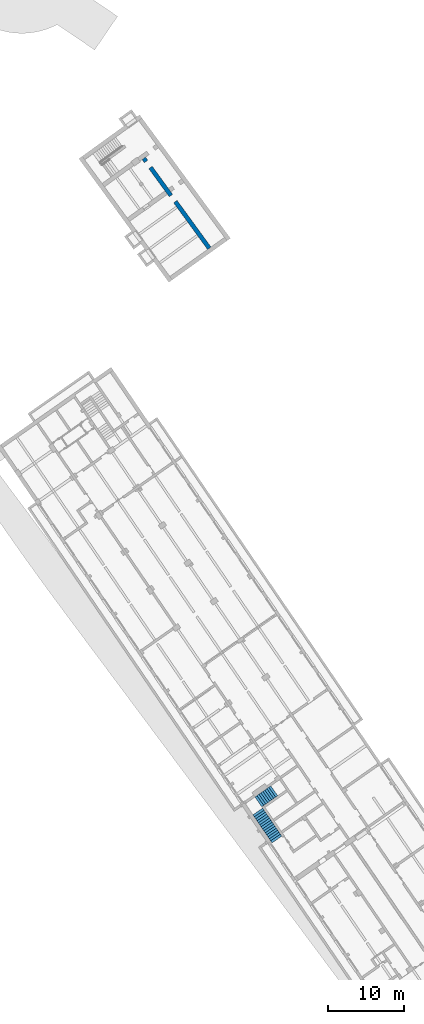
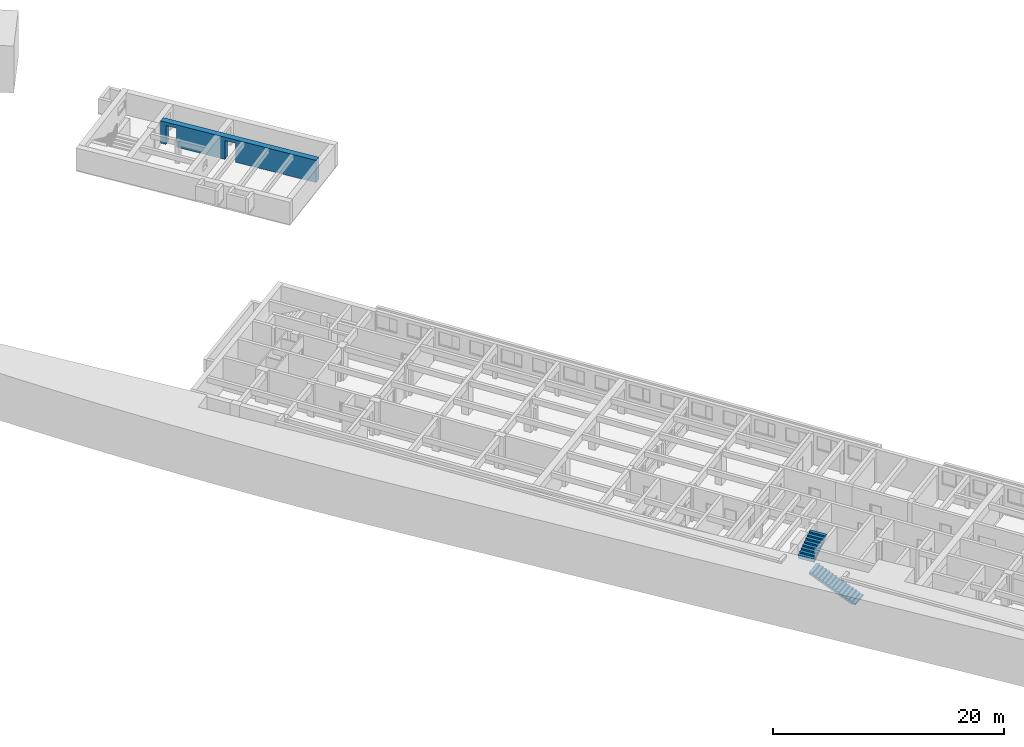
# One storey, part 108 of 112: 2 stair flights, 1 wall, 1 element without a shape of its own.
"""IFC2X3 building model written with IfcOpenShell, lengths in millimetres."""

from ifc_helpers import new_model, entity, si_unit, converted_unit, derived_unit, direction, frame, origin, place, context, subcontext, project, spatial, faceted_brep, material, material_list, layer, layer_set, type_object, element, aggregate, save


model = new_model("IFC2X3")

# Units and contexts
model_context = context("Model", 3, precision=0.01, world=origin(), true_north=direction((6.123031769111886e-17, 1.0)))
body_context = subcontext(model_context, "Body", "Model", "MODEL_VIEW")
ifc_project = project(units=[si_unit("LENGTHUNIT", "METRE", prefix="MILLI"), si_unit("AREAUNIT", "SQUARE_METRE"), si_unit("VOLUMEUNIT", "CUBIC_METRE"), converted_unit("PLANEANGLEUNIT", "DEGREE", entity("IfcRatioMeasure", 0.017453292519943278), si_unit("PLANEANGLEUNIT", "RADIAN"), dimensions=[0, 0, 0, 0, 0, 0, 0]), si_unit("MASSUNIT", "GRAM", prefix="KILO"), derived_unit("MASSDENSITYUNIT", [(si_unit("MASSUNIT", "GRAM", prefix="KILO"), 1), (si_unit("LENGTHUNIT", "METRE"), -3)]), derived_unit("MOMENTOFINERTIAUNIT", [(si_unit("LENGTHUNIT", "METRE"), 4)]), si_unit("TIMEUNIT", "SECOND"), si_unit("FREQUENCYUNIT", "HERTZ"), si_unit("THERMODYNAMICTEMPERATUREUNIT", "DEGREE_CELSIUS"), derived_unit("THERMALTRANSMITTANCEUNIT", [(si_unit("MASSUNIT", "GRAM", prefix="KILO"), 1), (si_unit("THERMODYNAMICTEMPERATUREUNIT", "KELVIN"), -1), (si_unit("TIMEUNIT", "SECOND"), -3)]), derived_unit("THERMALCONDUCTANCEUNIT", [(si_unit("MASSUNIT", "GRAM", prefix="KILO"), 1), (si_unit("LENGTHUNIT", "METRE"), 1), (si_unit("THERMODYNAMICTEMPERATUREUNIT", "KELVIN"), -1), (si_unit("TIMEUNIT", "SECOND"), -3)]), derived_unit("VOLUMETRICFLOWRATEUNIT", [(si_unit("LENGTHUNIT", "METRE"), 3), (si_unit("TIMEUNIT", "SECOND"), -1)]), derived_unit("MASSFLOWRATEUNIT", [(si_unit("MASSUNIT", "GRAM", prefix="KILO"), 1), (si_unit("TIMEUNIT", "SECOND"), -1)]), derived_unit("ROTATIONALFREQUENCYUNIT", [(si_unit("TIMEUNIT", "SECOND"), -1)]), si_unit("ELECTRICCURRENTUNIT", "AMPERE"), si_unit("ELECTRICVOLTAGEUNIT", "VOLT"), si_unit("POWERUNIT", "WATT"), converted_unit("FORCEUNIT", "KIP", entity("IfcRatioMeasure", 2.088543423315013e-05), si_unit("FORCEUNIT", "NEWTON"), dimensions=[1, 1, -2, 0, 0, 0, 0]), si_unit("ILLUMINANCEUNIT", "LUX"), si_unit("LUMINOUSFLUXUNIT", "LUMEN"), si_unit("LUMINOUSINTENSITYUNIT", "CANDELA"), derived_unit("USERDEFINED", [(si_unit("MASSUNIT", "GRAM", prefix="KILO"), -1), (si_unit("LENGTHUNIT", "METRE"), -2), (si_unit("TIMEUNIT", "SECOND"), 3), (si_unit("LUMINOUSFLUXUNIT", "LUMEN"), 1)]), derived_unit("USERDEFINED", [(si_unit("MASSUNIT", "GRAM", prefix="KILO"), 1), (si_unit("LENGTHUNIT", "METRE"), 3), (si_unit("TIMEUNIT", "SECOND"), -3), (si_unit("ELECTRICCURRENTUNIT", "AMPERE"), -2)]), derived_unit("USERDEFINED", [(si_unit("LENGTHUNIT", "METRE"), 2), (si_unit("TIMEUNIT", "SECOND"), -2)]), derived_unit("SOUNDPOWERUNIT", [(si_unit("MASSUNIT", "GRAM", prefix="KILO"), 1), (si_unit("LENGTHUNIT", "METRE"), 2), (si_unit("TIMEUNIT", "SECOND"), -3)]), derived_unit("SOUNDPRESSUREUNIT", [(si_unit("MASSUNIT", "GRAM", prefix="KILO"), 1), (si_unit("LENGTHUNIT", "METRE"), -1), (si_unit("TIMEUNIT", "SECOND"), -2)]), derived_unit("LINEARVELOCITYUNIT", [(si_unit("LENGTHUNIT", "METRE"), 1), (si_unit("TIMEUNIT", "SECOND"), -1)]), si_unit("PRESSUREUNIT", "PASCAL"), derived_unit("USERDEFINED", [(si_unit("LENGTHUNIT", "METRE"), -2), (si_unit("MASSUNIT", "GRAM", prefix="KILO"), 1), (si_unit("TIMEUNIT", "SECOND"), -2)]), derived_unit("LINEARFORCEUNIT", [(si_unit("MASSUNIT", "GRAM", prefix="KILO"), 1), (si_unit("LENGTHUNIT", "METRE"), 1), (si_unit("TIMEUNIT", "SECOND"), -2), (si_unit("LENGTHUNIT", "METRE"), -1)]), derived_unit("PLANARFORCEUNIT", [(si_unit("MASSUNIT", "GRAM", prefix="KILO"), 1), (si_unit("LENGTHUNIT", "METRE"), 1), (si_unit("TIMEUNIT", "SECOND"), -2), (si_unit("LENGTHUNIT", "METRE"), -2)]), derived_unit("SPECIFICHEATCAPACITYUNIT", [(si_unit("LENGTHUNIT", "METRE"), 2), (si_unit("TIMEUNIT", "SECOND"), -2), (si_unit("THERMODYNAMICTEMPERATUREUNIT", "KELVIN"), -1)]), derived_unit("VAPORPERMEABILITYUNIT", [(si_unit("TIMEUNIT", "SECOND"), 1), (si_unit("LENGTHUNIT", "METRE"), -1)]), derived_unit("DYNAMICVISCOSITYUNIT", [(si_unit("MASSUNIT", "GRAM", prefix="KILO"), 1), (si_unit("LENGTHUNIT", "METRE"), -1), (si_unit("TIMEUNIT", "SECOND"), -1)]), derived_unit("THERMALEXPANSIONCOEFFICIENTUNIT", [(si_unit("THERMODYNAMICTEMPERATUREUNIT", "KELVIN"), -1)])], contexts=[model_context])

# Site, building, storey
site_placement = place(None, frame((0.0, 0.0, 0.0), z_axis=(0.0, 0.0, 1.0), x_axis=(0.8191520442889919, 0.5735764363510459, 0.0)))
site = spatial("IfcSite", under=ifc_project, at=site_placement, Name="Default", CompositionType="ELEMENT")
building_placement = place(site_placement, origin())
building = spatial("IfcBuilding", under=site, at=building_placement, CompositionType="ELEMENT")
storey_placement = place(building_placement, frame((0.0, 0.0, -3600.0)))
storey = spatial("IfcBuildingStorey", under=building, at=storey_placement, Name="0.UG -3.60", CompositionType="ELEMENT", Elevation=-3600.0000000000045)

# Wall
ifc_material_1 = material(Name="Analytical Wall Surface_CJC")
ifc_layer = layer(ifc_material_1, 550.0)
ifc_layer_set = layer_set([ifc_layer], Name="Basic Wall:Wand_Innen_55")
wall_type = type_object("IfcWallType", Name="Basic Wall:Wand_Innen_55", PredefinedType="STANDARD", material=ifc_layer_set)
wall_placement = place(storey_placement, frame((-184353.72190024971, 178460.06000913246, -50.0), z_axis=(0.0, 0.0, 1.0), x_axis=(-0.01853253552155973, 0.9998282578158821, 0.0)))
element("IfcWall", 1, at=wall_placement, inside=storey, type_object=wall_type, Name="Basic Wall:Wand_Innen_55", ObjectType="Basic Wall:Wand_Innen_55", context=body_context, shape_type="Brep", body=[
    faceted_brep([(0.0, -275.0, 0.0), (7635.848738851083, -275.0, 0.0), (7635.848738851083, -275.0, 2000.0), (8635.848738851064, -275.0, 2000.0), (8635.848738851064, -275.0, 0.0), (9035.848738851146, -275.0, 0.0), (9585.862163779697, -275.0, 0.0), (13216.367868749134, -275.0, 0.0), (13216.367868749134, -275.0, 2000.0), (14216.02441387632, -275.0, 2000.0), (14216.02441387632, -275.0, 0.0), (14714.33010906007, -275.0, 0.0), (14714.33010906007, -275.0, 2350.0), (9585.862163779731, -275.0, 2350.0), (9035.848738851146, -275.0, 2350.0), (0.0, -275.0, 2350.0), (5.051833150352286, 275.0, 0.0), (5.051833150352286, 275.0, 2350.0), (2144.2296649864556, 275.0, 2350.0), (2444.229664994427, 275.0, 2350.0), (4474.293720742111, 275.0, 2350.0), (4774.300723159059, 275.0, 2350.0), (6786.698557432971, 275.0, 2350.0), (7086.7046675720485, 275.0, 2350.0), (9039.691602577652, 275.0, 2350.0), (9589.70502750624, 275.0, 2350.0), (14716.02441387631, 275.0, 2350.0), (14716.02441387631, 275.0, 0.0), (14216.02441387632, 275.0, 0.0), (14216.02441387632, 275.0, 2000.0), (13216.36786874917, 275.0, 2000.0), (13216.36786874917, 275.0, 0.0), (9589.70502750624, 275.0, 0.0), (9039.691602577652, 275.0, 0.0), (8635.848738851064, 275.0, 0.0), (8635.848738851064, 275.0, 2000.0), (7635.848738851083, 275.0, 2000.0), (7635.848738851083, 275.0, 0.0)], [[[0, 1, 2, 3, 4, 5, 6, 7, 8, 9, 10, 11, 12, 13, 14, 15]], [[16, 17, 18, 19, 20, 21, 22, 23, 24, 25, 26, 27, 28, 29, 30, 31, 32, 33, 34, 35, 36, 37]], [[0, 15, 17, 16]], [[12, 11, 27, 26]], [[1, 0, 16, 37]], [[15, 14, 13, 12, 26, 25, 24, 23, 22, 21, 20, 19, 18, 17]], [[8, 7, 31, 30]], [[9, 8, 30, 29]], [[10, 9, 29, 28]], [[11, 10, 28, 27]], [[2, 1, 37, 36]], [[3, 2, 36, 35]], [[4, 3, 35, 34]], [[7, 6, 5, 4, 34, 33, 32, 31]]]),
])

# Stair, stair flights
stair_placement = place(storey_placement, origin())
stair = element("IfcStair", 2, at=stair_placement, inside=storey, Name="Precast Stair:Stair", ObjectType="Precast Stair:Stair_CJC_KH", ShapeType="NOTDEFINED")
ifc_material_2 = material(Name="Concrete, Cast-in-Place gray")
ifc_material_list = material_list([ifc_material_2, ifc_material_1])
stair_flight_type = type_object("IfcStairFlightType", Name="Monolithic Run:1mm_Tread-175mm_Depth", PredefinedType="STRAIGHT")
stair_flight_1_placement = place(stair_placement, frame((-222682.45229691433, 109255.22423041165, 0.0)))
stair_flight_1 = element("IfcStairFlight", 3, at=stair_flight_1_placement, type_object=stair_flight_type, material=ifc_material_list, Name="Precast Stair:Stair:623219 Run 1", ObjectType="Monolithic Run:1mm_Tread-175mm_Depth", NumberOfRiser=15, NumberOfTreads=14, RiserHeight=0.4921259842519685, TreadLength=1.0498687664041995, context=body_context, shape_type="Brep", body=[
    faceted_brep([(4.674122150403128, 343.0443397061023, 150.0), (0.0, 23.078478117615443, 150.0), (1579.8314415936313, 0.0, 150.0), (1584.5055637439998, 319.9658615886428, 150.0), (4.674122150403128, 343.0443397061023, 149.0), (1584.5055637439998, 319.9658615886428, 149.0), (1579.8314415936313, 0.0, 149.0), (0.0, 23.078478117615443, 149.0)], [[[0, 1, 2, 3]], [[4, 5, 6, 7]], [[1, 0, 4, 7]], [[2, 1, 7, 6]], [[3, 2, 6, 5]], [[0, 3, 5, 4]]]),
    faceted_brep([(9.348244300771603, 663.010201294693, 300.0), (4.674122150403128, 343.0443397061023, 300.0), (1584.5055637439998, 319.9658615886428, 300.0), (1589.1796858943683, 639.9317231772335, 300.0), (9.348244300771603, 663.010201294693, 299.0), (1589.1796858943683, 639.9317231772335, 299.0), (1584.5055637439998, 319.9658615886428, 299.0), (4.674122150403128, 343.0443397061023, 299.0)], [[[0, 1, 2, 3]], [[4, 5, 6, 7]], [[1, 0, 4, 7]], [[2, 1, 7, 6]], [[3, 2, 6, 5]], [[0, 3, 5, 4]]]),
    faceted_brep([(14.022366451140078, 982.9760628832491, 450.0), (9.348244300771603, 663.0102012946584, 450.0), (1589.1796858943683, 639.9317231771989, 450.0), (1593.8538080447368, 959.8975847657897, 450.0), (14.022366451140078, 982.9760628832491, 449.0), (1593.8538080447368, 959.8975847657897, 449.0), (1589.1796858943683, 639.9317231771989, 449.0), (9.348244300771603, 663.0102012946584, 449.0)], [[[0, 1, 2, 3]], [[4, 5, 6, 7]], [[1, 0, 4, 7]], [[2, 1, 7, 6]], [[3, 2, 6, 5]], [[0, 3, 5, 4]]]),
    faceted_brep([(18.696488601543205, 1302.94192447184, 600.0), (14.022366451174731, 982.9760628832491, 600.0), (1593.8538080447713, 959.8975847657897, 600.0), (1598.5279301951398, 1279.8634463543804, 600.0), (18.696488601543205, 1302.94192447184, 599.0), (1598.5279301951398, 1279.8634463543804, 599.0), (1593.8538080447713, 959.8975847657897, 599.0), (14.022366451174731, 982.9760628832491, 599.0)], [[[0, 1, 2, 3]], [[4, 5, 6, 7]], [[1, 0, 4, 7]], [[2, 1, 7, 6]], [[3, 2, 6, 5]], [[0, 3, 5, 4]]]),
    faceted_brep([(23.370610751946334, 1622.9077860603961, 750.0), (18.696488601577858, 1302.9419244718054, 750.0), (1598.5279301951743, 1279.8634463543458, 750.0), (1603.2020523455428, 1599.8293079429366, 750.0), (23.370610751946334, 1622.9077860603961, 749.0), (1603.2020523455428, 1599.8293079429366, 749.0), (1598.5279301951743, 1279.8634463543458, 749.0), (18.696488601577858, 1302.9419244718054, 749.0)], [[[0, 1, 2, 3]], [[4, 5, 6, 7]], [[1, 0, 4, 7]], [[2, 1, 7, 6]], [[3, 2, 6, 5]], [[0, 3, 5, 4]]]),
    faceted_brep([(28.04473290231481, 1942.8736476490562, 900.0), (23.370610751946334, 1622.9077860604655, 900.0), (1603.2020523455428, 1599.829307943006, 900.0), (1607.8761744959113, 1919.7951695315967, 900.0), (28.04473290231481, 1942.8736476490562, 899.0), (1607.8761744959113, 1919.7951695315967, 899.0), (1603.2020523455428, 1599.829307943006, 899.0), (23.370610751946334, 1622.9077860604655, 899.0)], [[[0, 1, 2, 3]], [[4, 5, 6, 7]], [[1, 0, 4, 7]], [[2, 1, 7, 6]], [[3, 2, 6, 5]], [[0, 3, 5, 4]]]),
    faceted_brep([(32.718855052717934, 2262.839509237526, 1050.0), (28.044732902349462, 1942.8736476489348, 1050.0), (1607.876174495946, 1919.7951695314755, 1050.0), (1612.5502966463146, 2239.761031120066, 1050.0), (32.718855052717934, 2262.839509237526, 1049.0), (1612.5502966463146, 2239.761031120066, 1049.0), (1607.876174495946, 1919.7951695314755, 1049.0), (28.044732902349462, 1942.8736476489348, 1049.0)], [[[0, 1, 2, 3]], [[4, 5, 6, 7]], [[1, 0, 4, 7]], [[2, 1, 7, 6]], [[3, 2, 6, 5]], [[0, 3, 5, 4]]]),
    faceted_brep([(37.39297720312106, 2582.8053708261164, 1200.0), (32.71885505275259, 2262.839509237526, 1200.0), (1612.5502966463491, 2239.761031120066, 1200.0), (1617.2244187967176, 2559.726892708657, 1200.0), (37.39297720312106, 2582.8053708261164, 1199.0), (1617.2244187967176, 2559.726892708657, 1199.0), (1612.5502966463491, 2239.761031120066, 1199.0), (32.71885505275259, 2262.839509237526, 1199.0)], [[[0, 1, 2, 3]], [[4, 5, 6, 7]], [[1, 0, 4, 7]], [[2, 1, 7, 6]], [[3, 2, 6, 5]], [[0, 3, 5, 4]]]),
    faceted_brep([(42.06709935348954, 2902.771232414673, 1350.0), (37.39297720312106, 2582.805370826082, 1350.0), (1617.2244187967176, 2559.7268927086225, 1350.0), (1621.898540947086, 2879.692754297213, 1350.0), (42.06709935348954, 2902.771232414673, 1349.0), (1621.898540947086, 2879.692754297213, 1349.0), (1617.2244187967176, 2559.7268927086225, 1349.0), (37.39297720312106, 2582.805370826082, 1349.0)], [[[0, 1, 2, 3]], [[4, 5, 6, 7]], [[1, 0, 4, 7]], [[2, 1, 7, 6]], [[3, 2, 6, 5]], [[0, 3, 5, 4]]]),
    faceted_brep([(46.74122150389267, 3222.7370940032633, 1500.0), (42.06709935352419, 2902.771232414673, 1500.0), (1621.8985409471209, 2879.692754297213, 1500.0), (1626.5726630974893, 3199.658615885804, 1500.0), (46.74122150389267, 3222.7370940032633, 1499.0), (1626.5726630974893, 3199.658615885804, 1499.0), (1621.8985409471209, 2879.692754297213, 1499.0), (42.06709935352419, 2902.771232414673, 1499.0)], [[[0, 1, 2, 3]], [[4, 5, 6, 7]], [[1, 0, 4, 7]], [[2, 1, 7, 6]], [[3, 2, 6, 5]], [[0, 3, 5, 4]]]),
    faceted_brep([(51.415343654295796, 3542.7029555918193, 1650.0), (46.74122150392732, 3222.737094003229, 1650.0), (1626.572663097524, 3199.658615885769, 1650.0), (1631.2467852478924, 3519.62447747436, 1650.0), (51.415343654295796, 3542.7029555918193, 1649.0), (1631.2467852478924, 3519.62447747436, 1649.0), (1626.572663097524, 3199.658615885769, 1649.0), (46.74122150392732, 3222.737094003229, 1649.0)], [[[0, 1, 2, 3]], [[4, 5, 6, 7]], [[1, 0, 4, 7]], [[2, 1, 7, 6]], [[3, 2, 6, 5]], [[0, 3, 5, 4]]]),
    faceted_brep([(56.08946580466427, 3862.668817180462, 1800.0), (51.415343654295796, 3542.7029555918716, 1800.0), (1631.2467852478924, 3519.624477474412, 1800.0), (1635.9209073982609, 3839.590339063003, 1800.0), (56.08946580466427, 3862.668817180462, 1799.0), (1635.9209073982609, 3839.590339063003, 1799.0), (1631.2467852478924, 3519.624477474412, 1799.0), (51.415343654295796, 3542.7029555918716, 1799.0)], [[[0, 1, 2, 3]], [[4, 5, 6, 7]], [[1, 0, 4, 7]], [[2, 1, 7, 6]], [[3, 2, 6, 5]], [[0, 3, 5, 4]]]),
    faceted_brep([(60.7635879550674, 4182.634678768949, 1950.0), (56.089465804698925, 3862.6688171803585, 1950.0), (1635.9209073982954, 3839.5903390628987, 1950.0), (1640.595029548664, 4159.556200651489, 1950.0), (60.7635879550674, 4182.634678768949, 1949.0), (1640.595029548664, 4159.556200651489, 1949.0), (1635.9209073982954, 3839.5903390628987, 1949.0), (56.089465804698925, 3862.6688171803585, 1949.0)], [[[0, 1, 2, 3]], [[4, 5, 6, 7]], [[1, 0, 4, 7]], [[2, 1, 7, 6]], [[3, 2, 6, 5]], [[0, 3, 5, 4]]]),
    faceted_brep([(65.43771010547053, 4502.60054035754, 2100.0), (60.763587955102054, 4182.634678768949, 2100.0), (1640.5950295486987, 4159.556200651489, 2100.0), (1645.2691516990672, 4479.52206224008, 2100.0), (65.43771010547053, 4502.60054035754, 2099.0), (1645.2691516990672, 4479.52206224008, 2099.0), (1640.5950295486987, 4159.556200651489, 2099.0), (60.763587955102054, 4182.634678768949, 2099.0)], [[[0, 1, 2, 3]], [[4, 5, 6, 7]], [[1, 0, 4, 7]], [[2, 1, 7, 6]], [[3, 2, 6, 5]], [[0, 3, 5, 4]]]),
    faceted_brep([(4.674122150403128, 343.0443397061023, 149.0), (0.0, 23.078478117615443, 149.0), (1579.8314415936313, 0.0, 149.0), (1584.505563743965, 319.96586158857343, 149.0), (4.674122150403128, 343.0443397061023, 0.0), (0.0, 23.078478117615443, 0.0), (1579.8314415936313, 0.0, 0.0), (1584.5055637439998, 319.9658615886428, 0.0), (9.348244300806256, 663.0102012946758, 299.0), (4.674122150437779, 343.0443397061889, 299.0), (1584.5055637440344, 319.96586158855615, 299.0), (1589.1796858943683, 639.9317231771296, 299.0), (9.348244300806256, 663.0102012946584, 105.7278447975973), (6.053678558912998, 437.48152826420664, 0.0), (1585.8851201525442, 414.40305014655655, 0.0), (1589.1796858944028, 639.9317231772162, 105.7278447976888), (14.022366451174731, 982.9760628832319, 449.0), (9.348244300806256, 663.010201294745, 449.0), (1589.1796858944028, 639.9317231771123, 449.0), (1593.8538080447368, 959.8975847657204, 449.0), (14.022366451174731, 982.9760628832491, 255.72784479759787), (1593.8538080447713, 959.8975847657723, 255.72784479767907), (18.696488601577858, 1302.9419244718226, 599.0), (14.022366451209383, 982.9760628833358, 599.0), (1593.8538080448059, 959.8975847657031, 599.0), (1598.5279301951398, 1279.8634463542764, 599.0), (18.696488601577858, 1302.9419244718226, 405.7278447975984), (1598.5279301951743, 1279.863446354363, 405.72784479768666), (23.370610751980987, 1622.9077860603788, 749.0), (18.69648860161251, 1302.941924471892, 749.0), (1598.5279301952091, 1279.8634463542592, 749.0), (1603.2020523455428, 1599.8293079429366, 749.0), (23.370610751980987, 1622.9077860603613, 555.7278447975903), (1603.2020523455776, 1599.8293079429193, 555.7278447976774), (28.044732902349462, 1942.873647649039, 899.0), (23.370610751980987, 1622.907786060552, 899.0), (1603.2020523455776, 1599.8293079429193, 899.0), (1607.8761744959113, 1919.7951695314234, 899.0), (28.044732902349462, 1942.873647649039, 705.7278447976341), (1607.876174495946, 1919.7951695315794, 705.7278447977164), (32.71885505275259, 2262.8395092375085, 1049.0), (28.044732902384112, 1942.8736476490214, 1049.0), (1607.8761744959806, 1919.7951695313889, 1049.0), (1612.5502966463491, 2239.761031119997, 1049.0), (32.71885505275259, 2262.8395092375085, 855.7278447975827), (1612.5502966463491, 2239.7610311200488, 855.7278447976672), (37.392977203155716, 2582.805370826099, 1199.0), (32.71885505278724, 2262.839509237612, 1199.0), (1612.550296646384, 2239.7610311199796, 1199.0), (1617.2244187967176, 2559.726892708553, 1199.0), (37.392977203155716, 2582.805370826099, 1005.727844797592), (1617.2244187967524, 2559.7268927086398, 1005.7278447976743), (42.06709935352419, 2902.771232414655, 1349.0), (37.392977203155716, 2582.8053708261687, 1349.0), (1617.2244187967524, 2559.7268927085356, 1349.0), (1621.898540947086, 2879.692754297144, 1349.0), (42.06709935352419, 2902.771232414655, 1155.7278447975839), (1621.8985409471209, 2879.6927542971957, 1155.727844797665), (46.74122150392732, 3222.737094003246, 1499.0), (42.067099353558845, 2902.771232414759, 1499.0), (1621.8985409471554, 2879.6927542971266, 1499.0), (1626.572663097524, 3199.6586158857, 1499.0), (46.74122150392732, 3222.737094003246, 1305.7278447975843), (1626.572663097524, 3199.6586158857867, 1305.7278447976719), (51.41534365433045, 3542.702955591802, 1649.0), (46.741221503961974, 3222.737094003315, 1649.0), (1626.5726630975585, 3199.6586158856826, 1649.0), (1631.2467852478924, 3519.62447747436, 1649.0), (51.41534365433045, 3542.702955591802, 1455.7278447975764), (1631.246785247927, 3519.6244774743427, 1455.727844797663), (56.089465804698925, 3862.668817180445, 1799.0), (51.41534365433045, 3542.702955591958, 1799.0), (1631.246785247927, 3519.6244774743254, 1799.0), (1635.9209073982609, 3839.5903390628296, 1799.0), (56.089465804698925, 3862.668817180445, 1605.7278447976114), (1635.9209073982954, 3839.5903390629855, 1605.7278447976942), (60.763587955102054, 4182.634678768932, 1949.0), (56.08946580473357, 3862.668817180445, 1949.0), (1635.9209073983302, 3839.5903390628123, 1949.0), (1640.5950295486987, 4159.55620065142, 1949.0), (60.763587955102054, 4182.634678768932, 1755.7278447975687), (1640.5950295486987, 4159.556200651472, 1755.7278447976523), (65.43771010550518, 4502.600540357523, 2099.0), (60.7635879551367, 4182.634678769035, 2099.0), (1640.5950295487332, 4159.556200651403, 2099.0), (1645.2691516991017, 4479.522062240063, 2099.0), (65.43771010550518, 4502.600540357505, 1905.7278447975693), (1645.2691516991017, 4479.522062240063, 1905.7278447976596)], [[[0, 1, 2, 3]], [[1, 0, 4, 5]], [[2, 1, 5, 6]], [[3, 2, 6, 7]], [[8, 9, 10, 11]], [[4, 0, 9, 8, 12, 13]], [[0, 3, 10, 9]], [[3, 7, 14, 15, 11, 10]], [[16, 17, 18, 19]], [[17, 16, 20, 12, 8]], [[8, 11, 18, 17]], [[19, 18, 11, 15, 21]], [[22, 23, 24, 25]], [[23, 22, 26, 20, 16]], [[16, 19, 24, 23]], [[25, 24, 19, 21, 27]], [[28, 29, 30, 31]], [[29, 28, 32, 26, 22]], [[22, 25, 30, 29]], [[31, 30, 25, 27, 33]], [[34, 35, 36, 37]], [[35, 34, 38, 32, 28]], [[28, 31, 36, 35]], [[37, 36, 31, 33, 39]], [[40, 41, 42, 43]], [[41, 40, 44, 38, 34]], [[34, 37, 42, 41]], [[43, 42, 37, 39, 45]], [[46, 47, 48, 49]], [[47, 46, 50, 44, 40]], [[40, 43, 48, 47]], [[49, 48, 43, 45, 51]], [[52, 53, 54, 55]], [[53, 52, 56, 50, 46]], [[46, 49, 54, 53]], [[55, 54, 49, 51, 57]], [[58, 59, 60, 61]], [[59, 58, 62, 56, 52]], [[52, 55, 60, 59]], [[61, 60, 55, 57, 63]], [[64, 65, 66, 67]], [[65, 64, 68, 62, 58]], [[58, 61, 66, 65]], [[67, 66, 61, 63, 69]], [[70, 71, 72, 73]], [[71, 70, 74, 68, 64]], [[64, 67, 72, 71]], [[73, 72, 67, 69, 75]], [[76, 77, 78, 79]], [[77, 76, 80, 74, 70]], [[70, 73, 78, 77]], [[79, 78, 73, 75, 81]], [[82, 83, 84, 85]], [[83, 82, 86, 80, 76]], [[76, 79, 84, 83]], [[85, 84, 79, 81, 87]], [[82, 85, 87, 86]], [[5, 4, 13, 14, 7, 6]], [[14, 13, 12, 20, 26, 32, 38, 44, 50, 56, 62, 68, 74, 80, 86, 87, 81, 75, 69, 63, 57, 51, 45, 39, 33, 27, 21, 15]]]),
])
stair_flight_2_placement = place(stair_placement, frame((-221045.3986167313, 113956.35891435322, 0.0)))
stair_flight_2 = element("IfcStairFlight", 4, at=stair_flight_2_placement, type_object=stair_flight_type, material=ifc_material_list, Name="Precast Stair:Stair:623219 Run 2", ObjectType="Monolithic Run:1mm_Tread-175mm_Depth", NumberOfRiser=9, NumberOfTreads=8, RiserHeight=0.4921259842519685, TreadLength=1.0498687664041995, context=body_context, shape_type="Brep", body=[
    faceted_brep([(320.0, 1580.0, 2400.0), (0.0, 1580.0, 2400.0), (0.0, 0.0, 2400.0), (320.0, 0.0, 2400.0), (320.0, 1580.0, 2399.0), (320.0, 0.0, 2399.0), (0.0, 0.0, 2399.0), (0.0, 1580.0, 2399.0)], [[[0, 1, 2, 3]], [[4, 5, 6, 7]], [[1, 0, 4, 7]], [[2, 1, 7, 6]], [[3, 2, 6, 5]], [[0, 3, 5, 4]]]),
    faceted_brep([(640.0, 1580.0, 2550.0), (320.0, 1580.0, 2550.0), (320.0, 0.0, 2550.0), (640.0, 0.0, 2550.0), (640.0, 1580.0, 2549.0), (640.0, 0.0, 2549.0), (320.0, 0.0, 2549.0), (320.0, 1580.0, 2549.0)], [[[0, 1, 2, 3]], [[4, 5, 6, 7]], [[1, 0, 4, 7]], [[2, 1, 7, 6]], [[3, 2, 6, 5]], [[0, 3, 5, 4]]]),
    faceted_brep([(960.0, 1580.0, 2700.0), (640.0, 1580.0, 2700.0), (640.0, 0.0, 2700.0), (960.0, 0.0, 2700.0), (960.0, 1580.0, 2699.0), (960.0, 0.0, 2699.0), (640.0, 0.0, 2699.0), (640.0, 1580.0, 2699.0)], [[[0, 1, 2, 3]], [[4, 5, 6, 7]], [[1, 0, 4, 7]], [[2, 1, 7, 6]], [[3, 2, 6, 5]], [[0, 3, 5, 4]]]),
    faceted_brep([(1280.0, 1580.0, 2850.0), (960.0, 1580.0, 2850.0), (960.0, 0.0, 2850.0), (1280.0, 0.0, 2850.0), (1280.0, 1580.0, 2849.0), (1280.0, 0.0, 2849.0), (960.0, 0.0, 2849.0), (960.0, 1580.0, 2849.0)], [[[0, 1, 2, 3]], [[4, 5, 6, 7]], [[1, 0, 4, 7]], [[2, 1, 7, 6]], [[3, 2, 6, 5]], [[0, 3, 5, 4]]]),
    faceted_brep([(1600.0, 1580.0, 3000.0), (1280.0, 1580.0, 3000.0), (1280.0, 0.0, 3000.0), (1600.0, 0.0, 3000.0), (1600.0, 1580.0, 2999.0), (1600.0, 0.0, 2999.0), (1280.0, 0.0, 2999.0), (1280.0, 1580.0, 2999.0)], [[[0, 1, 2, 3]], [[4, 5, 6, 7]], [[1, 0, 4, 7]], [[2, 1, 7, 6]], [[3, 2, 6, 5]], [[0, 3, 5, 4]]]),
    faceted_brep([(1920.0, 1580.0, 3150.0), (1600.0, 1580.0, 3150.0), (1600.0, 0.0, 3150.0), (1920.0, 0.0, 3150.0), (1920.0, 1580.0, 3149.0), (1920.0, 0.0, 3149.0), (1600.0, 0.0, 3149.0), (1600.0, 1580.0, 3149.0)], [[[0, 1, 2, 3]], [[4, 5, 6, 7]], [[1, 0, 4, 7]], [[2, 1, 7, 6]], [[3, 2, 6, 5]], [[0, 3, 5, 4]]]),
    faceted_brep([(2240.0, 1580.0, 3300.0), (1920.0, 1580.0, 3300.0), (1920.0, 0.0, 3300.0), (2240.0, 0.0, 3300.0), (2240.0, 1580.0, 3299.0), (2240.0, 0.0, 3299.0), (1920.0, 0.0, 3299.0), (1920.0, 1580.0, 3299.0)], [[[0, 1, 2, 3]], [[4, 5, 6, 7]], [[1, 0, 4, 7]], [[2, 1, 7, 6]], [[3, 2, 6, 5]], [[0, 3, 5, 4]]]),
    faceted_brep([(2560.0, 1580.0, 3450.0), (2240.0, 1580.0, 3450.0), (2240.0, 0.0, 3450.0), (2560.0, 0.0, 3450.0), (2560.0, 1580.0, 3449.0), (2560.0, 0.0, 3449.0), (2240.0, 0.0, 3449.0), (2240.0, 1580.0, 3449.0)], [[[0, 1, 2, 3]], [[4, 5, 6, 7]], [[1, 0, 4, 7]], [[2, 1, 7, 6]], [[3, 2, 6, 5]], [[0, 3, 5, 4]]]),
    faceted_brep([(320.0, 1580.0, 2399.0), (0.0, 1580.0, 2399.0), (0.0, 0.0, 2399.0), (320.0, 0.0, 2399.0), (320.0, 1580.0, 2205.727844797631), (0.0, 1580.0, 2055.7278447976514), (0.0, 0.0, 2055.7278447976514), (320.0, 0.0, 2205.7278447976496), (640.0, 1580.0, 2549.0), (320.0, 1580.0, 2549.0), (320.0, 0.0, 2549.0), (640.0, 0.0, 2549.0), (640.0, 1580.0, 2355.7278447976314), (640.0, 0.0, 2355.7278447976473), (960.0, 1580.0, 2699.0), (640.0, 1580.0, 2699.0), (640.0, 0.0, 2699.0), (960.0, 0.0, 2699.0), (960.0, 1580.0, 2505.7278447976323), (960.0, 0.0, 2505.727844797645), (1280.0, 1580.0, 2849.0), (960.0, 1580.0, 2849.0), (960.0, 0.0, 2849.0), (1280.0, 0.0, 2849.0), (1280.0, 1580.0, 2655.7278447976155), (1280.0, 0.0, 2655.7278447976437), (1600.0, 1580.0, 2805.727844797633), (1920.0, 1580.0, 2955.7278447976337), (2240.0, 1580.0, 3105.727844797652), (2560.0, 1580.0, 3255.727844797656), (2560.0, 0.0, 3255.7278447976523), (2240.0, 0.0, 3105.727844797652), (1920.0, 0.0, 2955.7278447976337), (1600.0, 0.0, 2805.727844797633), (1600.0, 1580.0, 2999.0), (1280.0, 1580.0, 2999.0), (1280.0, 0.0, 2999.0), (1600.0, 0.0, 2999.0), (1920.0, 1580.0, 3149.0), (1600.0, 1580.0, 3149.0), (1600.0, 0.0, 3149.0), (1920.0, 0.0, 3149.0), (2240.0, 1580.0, 3299.0), (1920.0, 1580.0, 3299.0), (1920.0, 0.0, 3299.0), (2240.0, 0.0, 3299.0), (2560.0, 1580.0, 3449.0), (2240.0, 1580.0, 3449.0), (2240.0, 0.0, 3449.0), (2560.0, 0.0, 3449.0)], [[[0, 1, 2, 3]], [[1, 0, 4, 5]], [[2, 1, 5, 6]], [[3, 2, 6, 7]], [[8, 9, 10, 11]], [[9, 8, 12, 4, 0]], [[10, 9, 0, 3]], [[11, 10, 3, 7, 13]], [[14, 15, 16, 17]], [[15, 14, 18, 12, 8]], [[16, 15, 8, 11]], [[17, 16, 11, 13, 19]], [[20, 21, 22, 23]], [[21, 20, 24, 18, 14]], [[22, 21, 14, 17]], [[23, 22, 17, 19, 25]], [[5, 4, 12, 18, 24, 26, 27, 28, 29, 30, 31, 32, 33, 25, 19, 13, 7, 6]], [[34, 35, 36, 37]], [[35, 34, 26, 24, 20]], [[36, 35, 20, 23]], [[37, 36, 23, 25, 33]], [[38, 39, 40, 41]], [[39, 38, 27, 26, 34]], [[40, 39, 34, 37]], [[41, 40, 37, 33, 32]], [[42, 43, 44, 45]], [[43, 42, 28, 27, 38]], [[44, 43, 38, 41]], [[45, 44, 41, 32, 31]], [[46, 47, 48, 49]], [[47, 46, 29, 28, 42]], [[48, 47, 42, 45]], [[49, 48, 45, 31, 30]], [[46, 49, 30, 29]]]),
])
aggregate(stair, [stair_flight_1, stair_flight_2])

save(model, "model.ifc")
